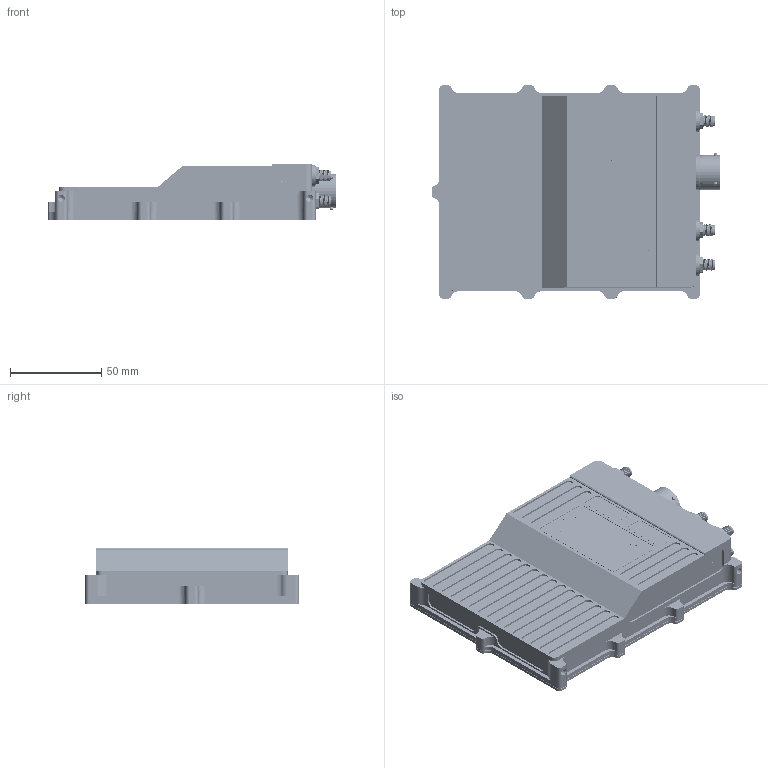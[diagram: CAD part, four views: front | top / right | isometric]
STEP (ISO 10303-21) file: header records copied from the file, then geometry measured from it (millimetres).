
FILE_DESCRIPTION(/* description */ (''),/* implementation_level */ '2;1');
FILE_NAME(/* name */ 'F02UA03684-01.001-MODEM.stp',/* time_stamp */ '2025-10-15T09:49:20+02:00',/* author */ (''),/* organization */ (''),/* preprocessor_version */ 'ST-DEVELOPER v20',/* originating_system */ 'SIEMENS PLM Software NX2412.7002',/* authorisation */ '');
FILE_SCHEMA (('AUTOMOTIVE_DESIGN { 1 0 10303 214 3 1 1 1 }'));
Products named in the file (17): F02U006279-01.001-CONNECTOR CABLE; F02U006278-01.001-CONNECTOR CABLE; F02U006277-01.001-CONNECTOR CABLE; F02U006281-01.001-WASHER; F02U006283-01.001-WASHER; F02U006282-01.001-WASHER; F02U006280-01.001-WASHER; TEST_5684387.001-Platzhalter; f02ue01551_01.003-CONNECTOR; f02u001065_01.001-SEALING; f02u000945_01.002-COUNTERSUNK-HEAD SCREW; F02U004162-01.001-STICKER; F02U004153-01.003-STICKER; F02U006251-01.001-STICKER; F02U006274-01.001-Gehaeusedeckel; F02U006273-01.001-Gehaeusewanne; F02UA03684-01.001-MODEM
Assembly tree (33 placements, depth 2):
  F02UA03684-01.001-MODEM
    F02U006273-01.001-Gehaeusewanne
    F02U006274-01.001-Gehaeusedeckel
    F02U006251-01.001-STICKER
    F02U004153-01.003-STICKER  x2
    F02U004162-01.001-STICKER
    f02u000945_01.002-COUNTERSUNK-HEAD SCREW  x12
    f02u001065_01.001-SEALING
    f02ue01551_01.003-CONNECTOR
    TEST_5684387.001-Platzhalter
    F02U006280-01.001-WASHER  x2
    F02U006282-01.001-WASHER  x2
    F02U006283-01.001-WASHER
    F02U006281-01.001-WASHER
    F02U006277-01.001-CONNECTOR CABLE  x4
    F02U006278-01.001-CONNECTOR CABLE
    F02U006279-01.001-CONNECTOR CABLE
Bounding box: 158.4 x 117.3 x 31 mm (x, y, z)
Volume: 85022.7 mm3; surface area: 122852.4 mm2
Topology: 98 solids, 98 shells, 5620 faces, 14718 edges, 9553 vertices
Faces by surface type: plane 2449, cylinder 1640, bspline 706, cone 382, extrusion 313, torus 124, revolution 6
Full cylindrical faces by diameter (mm): 0.4 x6, 0.6 x6, 0.72 x22, 0.8 x1, 0.95 x6, 1 x2, 1.25 x68, 1.4 x6, 2 x3, 2.075 x16, 2.21 x12, 2.5 x28, 2.9 x12, 3.1 x6, 3.2 x4, 3.332 x4, 4.1 x6, 4.15 x6, 4.5 x5, 4.7 x18, 5.3 x6, 5.394 x1, 6 x1, 6.061 x1, 6.35 x6, 6.4 x6, 6.6 x6, 6.742 x1, 7.576 x1, 9.7 x6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
Entity records: 217857 total; most frequent: CARTESIAN_POINT 124794, ORIENTED_EDGE 19014, DIRECTION 14579, EDGE_CURVE 9507, VERTEX_POINT 6399, AXIS2_PLACEMENT_3D 5199, EDGE_LOOP 4546, VECTOR 4178
